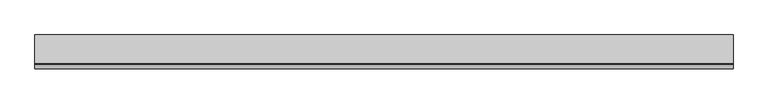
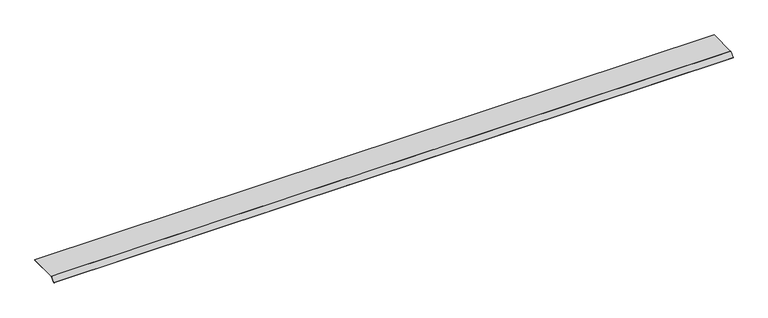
"""IFC4 building model written with IfcOpenShell, lengths in millimetres: proxy geometry, Electrical_Installation_Hager_Blank-Cover-800mm-Single-Sided-Height-40mm : Electrical_Installation_Hager_Blank-Cover-800mm-Single-Sided-Height-40mm."""

from ifc_helpers import new_model, si_unit, point, frame, frame_2d, origin, place, context, project, spatial, polyline, circle_curve, trimmed, segment, composite_curve, outline, extrude, source, transform, mapped, element, save


def electrical_fixtures_fe2920ec(model_context):
    return source(origin(), model_context, "Body", "SweptSolid", [
        extrude(outline(composite_curve([segment(polyline([(125.0, 25.5), (125.0, 22.5), (-124.8229541, 22.5)]), True, "CONTINUOUS"), segment(trimmed(circle_curve(frame_2d((-124.8229541, 21.0725733)), 1.4274267), [point((-124.8229541, 22.5))], [point((-125.8322972, 22.0819164))], True, "CARTESIAN"), True, "CONTINUOUS"), segment(polyline([(-125.8322972, 22.0819164), (-162.91729, -15.0030764), (-165.0386103, -12.8817561), (-127.8206472, 24.336207)]), True, "CONTINUOUS"), segment(trimmed(circle_curve(frame_2d((-125.0110025, 21.5265623)), 3.9734377), [point((-127.8206472, 24.336207))], [point((-125.0110025, 25.5))], False, "CARTESIAN"), True, "CONTINUOUS"), segment(polyline([(-125.0110025, 25.5), (125.0, 25.5)]), True, "CONTINUOUS")], self_intersect=False)), frame((0.0, 0.0, 0.0), z_axis=(1.0, 0.0, 0.0), x_axis=(0.0, 1.0, 0.0)), (0.0, 0.0, 1.0), 6011.6956759),
    ])


if __name__ == "__main__":
    model = new_model("IFC4")
    model_context = context("Model", 3, world=origin())
    ifc_project = project(units=[si_unit("LENGTHUNIT", "METRE", prefix="MILLI")], contexts=[model_context])
    site = spatial("IfcSite", under=ifc_project)
    building = spatial("IfcBuilding", under=site)
    placement = place(None, origin())
    electrical_fixtures_shape = electrical_fixtures_fe2920ec(model_context)
    element("IfcBuildingElementProxy", 1, Name="Electrical_Installation_Hager_Blank-Cover-800mm-Single-Sided-Height-40mm : Electrical_Installation_Hager_Blank-Cover-800mm-Single-Sided-Height-40mm", ObjectType="Electrical_Installation_Hager_Blank-Cover-800mm-Single-Sided-Height-40mm : Electrical_Installation_Hager_Blank-Cover-800mm-Single-Sided-Height-40mm", at=placement, inside=building, context=model_context, shape_type="MappedRepresentation", body=[
        mapped(electrical_fixtures_shape, transform((0.0, 0.0, 0.0), x_axis=(1.0, 0.0, 0.0), y_axis=(0.0, 1.0, 0.0), z_axis=(0.0, 0.0, 1.0))),
    ])
    save(model, "model.ifc")
